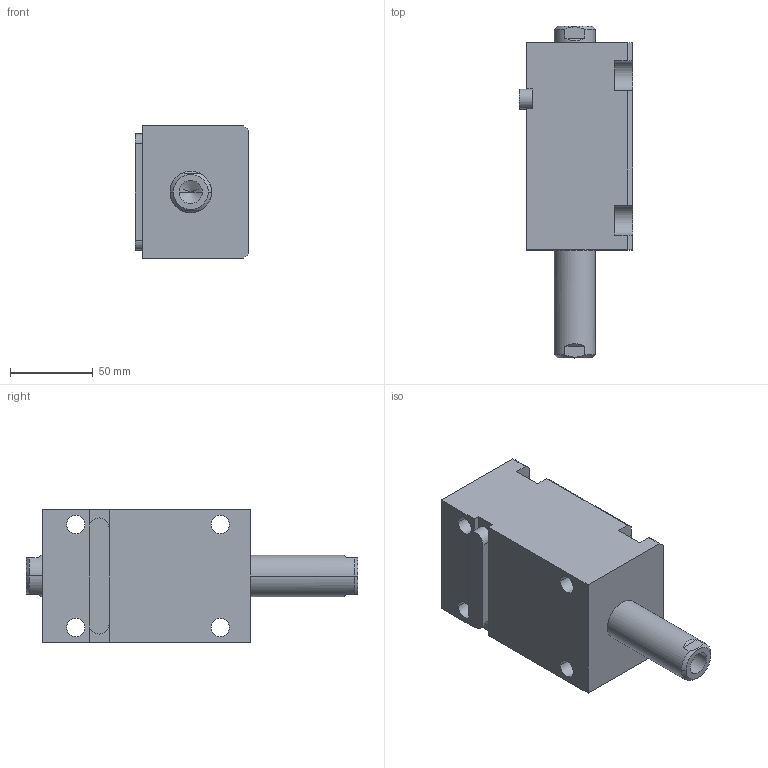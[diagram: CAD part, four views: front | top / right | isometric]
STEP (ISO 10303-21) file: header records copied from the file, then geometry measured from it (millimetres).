
FILE_DESCRIPTION (( 'STEP AP214' ), '1' );
FILE_NAME ('chtb-lw40x55_asm.STEP', '2018-06-05T01:56:53', ( 'Windows' ), ( 'Microsoft' ), 'SwSTEP 2.0', 'SolidWorks 2015', '' );
FILE_SCHEMA (( 'AUTOMOTIVE_DESIGN' ));
Length unit declared in the file: millimetre
Products named in the file (5): CHTB-SW40X55NHSG; CHTB-SD40QG; CHTB-LW40X55NBT; CHTB-LA40PJ; chtb-lw40x55_asm
Assembly tree (4 placements, depth 2):
  chtb-lw40x55_asm
    CHTB-LA40PJ
    CHTB-LW40X55NBT
    CHTB-SD40QG
    CHTB-SW40X55NHSG
Bounding box: 68.5 x 200 x 80 mm (x, y, z)
Volume: 590919.6 mm3; surface area: 103531.9 mm2
Topology: 4 solids, 4 shells, 172 faces, 462 edges, 304 vertices
Faces by surface type: cylinder 77, plane 52, cone 17, bspline 14, torus 12
Entity records: 10654 total; most frequent: CARTESIAN_POINT 6188, ORIENTED_EDGE 904, DIRECTION 853, EDGE_CURVE 452, AXIS2_PLACEMENT_3D 340, VERTEX_POINT 304, EDGE_LOOP 204, CIRCLE 175
